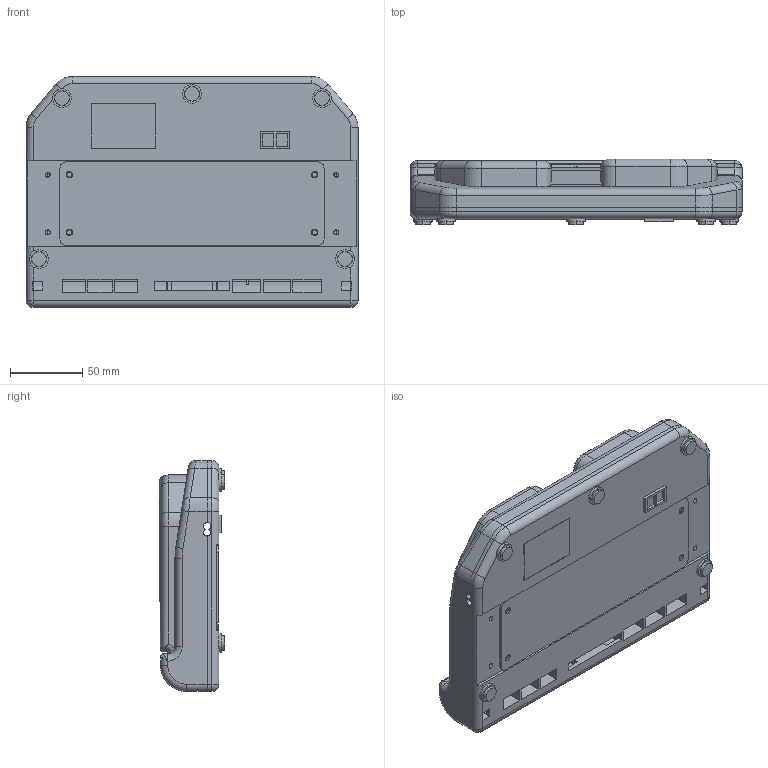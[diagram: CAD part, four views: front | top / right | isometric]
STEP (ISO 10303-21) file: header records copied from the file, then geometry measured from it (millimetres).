
FILE_DESCRIPTION (( 'STEP AP203' ), '1' );
FILE_NAME ('FS3-web.STEP', '2024-02-15T01:59:04', ( '' ), ( '' ), 'SwSTEP 2.0', 'SolidWorks 2023', '' );
FILE_SCHEMA (( 'CONFIG_CONTROL_DESIGN' ));
Length unit declared in the file: millimetre
Products named in the file (1): FS3-web
Bounding box: 230 x 45.37 x 160 mm (x, y, z)
Surface area: 162247.8 mm2 (no closed solid volume)
Topology: 0 solids, 23 shells, 356 faces, 1469 edges, 1114 vertices
Faces by surface type: plane 163, cylinder 156, torus 20, bspline 14, sphere 3
Entity records: 15705 total; most frequent: CARTESIAN_POINT 3611, DIRECTION 2588, ORIENTED_EDGE 2170, EDGE_CURVE 1458, VERTEX_POINT 1112, VECTOR 890, LINE 890, AXIS2_PLACEMENT_3D 849
